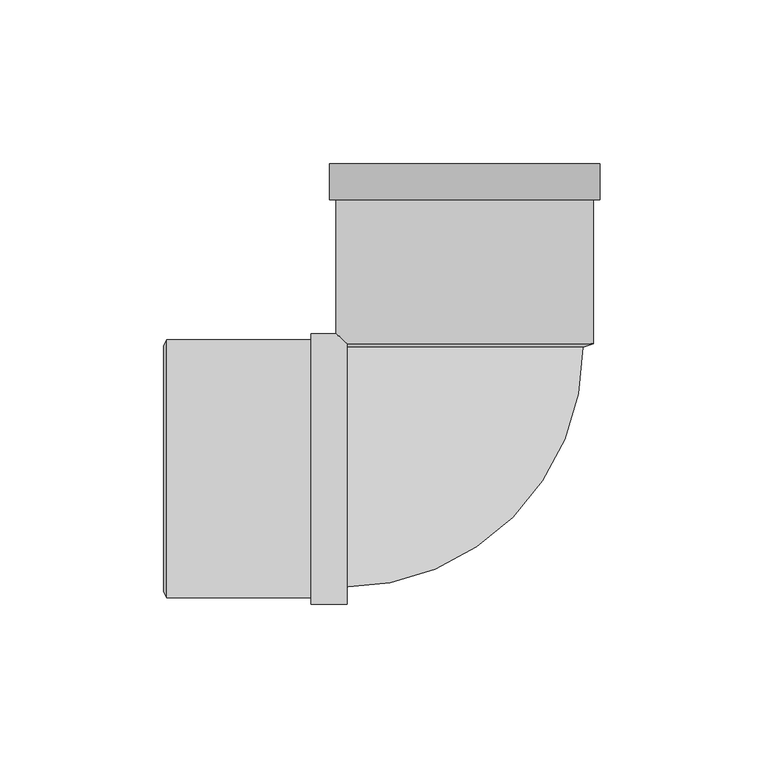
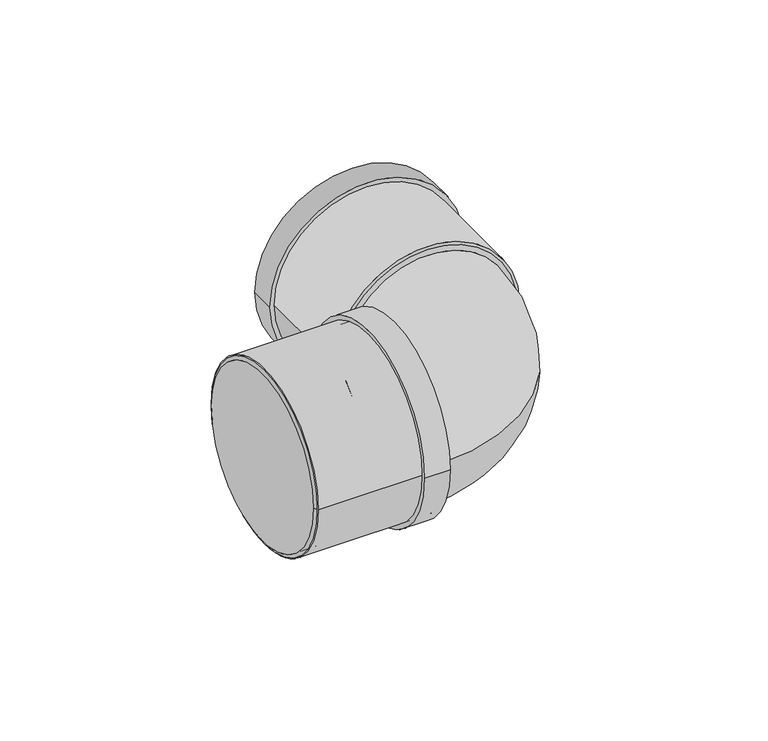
"""IFC4 building model written with IfcOpenShell, lengths in millimetres: pipe fitting geometry, Superdrain HT Bend Composite 2x45 : Superdrain HT Bend Composite 2x45."""

from ifc_helpers import new_model, si_unit, point, frame, origin, origin_2d, place, context, project, spatial, polyline, circle_curve, ellipse_curve, trimmed, segment, composite_curve, outline, extrude, source, transform, mapped, element, save
from ifc_brep_helpers import plane_surface, revolved_surface, advanced_brep


def pipe_fitting_4f944cac(model_context):
    return source(origin(), model_context, "Body", "SolidModel", [
        extrude(outline(composite_curve([segment(trimmed(circle_curve(origin_2d(), 39.375), [point((39.375, 0.0))], [point((-39.375, 0.0))], False, "CARTESIAN"), True, "CONTINUOUS"), segment(trimmed(circle_curve(origin_2d(), 39.375), [point((-39.375, 0.0))], [point((39.375, 0.0))], False, "CARTESIAN"), True, "CONTINUOUS")], self_intersect=False), holes=[composite_curve([segment(trimmed(circle_curve(origin_2d(), 37.5), [point((37.5, 0.0))], [point((-37.5, 0.0))], True, "CARTESIAN"), True, "CONTINUOUS"), segment(trimmed(circle_curve(origin_2d(), 37.5), [point((-37.5, 0.0))], [point((37.5, 0.0))], True, "CARTESIAN"), True, "CONTINUOUS")], self_intersect=False)]), frame((-91.0, 0.0, 0.0), z_axis=(1.0, 0.0, 0.0), x_axis=(0.0, 1.0, 0.0)), (0.0, 0.0, 1.0), 55.0),
        extrude(outline(composite_curve([segment(trimmed(circle_curve(origin_2d(), 41.34375), [point((41.34375, 0.0))], [point((-41.34375, 0.0))], False, "CARTESIAN"), True, "CONTINUOUS"), segment(trimmed(circle_curve(origin_2d(), 41.34375), [point((-41.34375, 0.0))], [point((41.34375, 0.0))], False, "CARTESIAN"), True, "CONTINUOUS")], self_intersect=False), holes=[composite_curve([segment(trimmed(circle_curve(origin_2d(), 37.5), [point((37.5, 0.0))], [point((-37.5, 0.0))], True, "CARTESIAN"), True, "CONTINUOUS"), segment(trimmed(circle_curve(origin_2d(), 37.5), [point((-37.5, 0.0))], [point((37.5, 0.0))], True, "CARTESIAN"), True, "CONTINUOUS")], self_intersect=False)]), frame((-47.0, 0.0, 0.0), z_axis=(1.0, 0.0, 0.0), x_axis=(0.0, 1.0, 0.0)), (0.0, 0.0, 1.0), 11.0),
        advanced_brep(
        [(-92.0, 37.5, 0.0), (-92.0, -37.5, 0.0), (-91.0, 39.375, 0.0), (-91.0, -39.375, 0.0)],
        [
            (0, 1, circle_curve(frame((-92.0, 0.0, 0.0), z_axis=(-1.0, 0.0, 0.0), x_axis=(0.0, 1.0000000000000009, 0.0)), 37.5)),
            (1, 0, circle_curve(frame((-92.0, 0.0, 0.0), z_axis=(-1.0, 0.0, 0.0), x_axis=(0.0, -1.0000000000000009, 0.0)), 37.5)),
            (2, 3, circle_curve(frame((-91.0, 0.0, 0.0), z_axis=(1.0, 0.0, 0.0), x_axis=(0.0, -1.0000000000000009, 0.0)), 39.375)),
            (3, 2, circle_curve(frame((-91.0, 0.0, 0.0), z_axis=(1.0, 0.0, 0.0), x_axis=(0.0, 1.0000000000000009, 0.0)), 39.375)),
            (3, 1),
            (0, 2),
        ],
        [
            plane_surface(frame((-92.0, 0.0, 0.0), z_axis=(-1.0, 0.0, 0.0), x_axis=(0.0, 0.0, -1.0))),
            plane_surface(frame((-91.0, 0.0, 0.0), z_axis=(1.0, 0.0, 0.0), x_axis=(0.0, 0.0, -1.0))),
            revolved_surface(polyline([(-92.0, 37.49999999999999, 0.0), (-91.0, 39.375, 0.0)]), (-112.0, 0.0, 0.0), (1.0000000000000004, 0.0, 0.0)),
            revolved_surface(polyline([(-92.0, -37.49999999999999, 0.0), (-91.0, -39.375, 0.0)]), (-112.0, 0.0, 0.0), (1.0000000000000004, 0.0, 0.0)),
        ],
        [
            (0, [[1, 2]]),
            (1, [[3, 4]]),
            (2, [[-4, 5, -1, 6]]),
            (3, [[-3, -6, -2, -5]]),
        ],
    ),
        advanced_brep(
        [(36.2, 37.2, 0.0), (-36.2, 37.2, 0.0), (-37.2, -36.2, 0.0), (-37.2, 36.2, 0.0)],
        [
            (0, 1, circle_curve(frame((0.0, 37.2, 0.0), z_axis=(0.0, 1.0, 0.0), x_axis=(-1.0, 0.0, 0.0)), 36.2)),
            (1, 0, circle_curve(frame((0.0, 37.2, 0.0), z_axis=(0.0, 1.0, 0.0), x_axis=(-1.0, 0.0, 0.0)), 36.2)),
            (2, 3, circle_curve(frame((-37.2, 0.0, 0.0), z_axis=(-1.0, 0.0, 0.0), x_axis=(0.0, 1.0, 0.0)), 36.2)),
            (3, 2, circle_curve(frame((-37.2, 0.0, 0.0), z_axis=(-1.0, 0.0, 0.0), x_axis=(0.0, 1.0, 0.0)), 36.2)),
            (3, 1, circle_curve(frame((-37.2, 37.2, 0.0), z_axis=(0.0, 0.0, 1.0), x_axis=(1.0, 0.0, 0.0)), 1.0)),
            (0, 2, circle_curve(frame((-37.2, 37.2, 0.0), z_axis=(0.0, 0.0, -1.0), x_axis=(1.0, 0.0, 0.0)), 73.4)),
        ],
        [
            plane_surface(frame((0.0, 37.2, 0.0), z_axis=(0.0, 1.0, 0.0), x_axis=(0.0, 0.0, -1.0))),
            plane_surface(frame((-37.2, 0.0, 0.0), z_axis=(-1.0, 0.0, 0.0), x_axis=(0.0, 0.0, -1.0))),
            revolved_surface(trimmed(ellipse_curve(frame((0.0, 37.2, 0.0), z_axis=(0.0, -1.0, 0.0), x_axis=(-1.0, 0.0, 0.0)), 36.2, 36.2), [point((-36.2, 37.2, 0.0))], [point((36.2, 37.2, 0.0))], True, "CARTESIAN"), (-37.2, 37.2, 0.0), (0.0, 0.0, 1.0)),
            revolved_surface(trimmed(ellipse_curve(frame((0.0, 37.2, 0.0), z_axis=(0.0, -1.0, 0.0), x_axis=(-1.0, 0.0, 0.0)), 36.2, 36.2), [point((36.2, 37.2, 0.0))], [point((-36.2, 37.2, 0.0))], True, "CARTESIAN"), (-37.2, 37.2, 0.0), (0.0, 0.0, 1.0)),
        ],
        [
            (0, [[1, 2]]),
            (1, [[3, 4]]),
            (2, [[-4, 5, -1, 6]]),
            (3, [[-3, -6, -2, -5]]),
        ],
    ),
        extrude(outline(composite_curve([segment(trimmed(circle_curve(origin_2d(), 39.375), [point((0.0, 39.375))], [point((0.0, -39.375))], False, "CARTESIAN"), True, "CONTINUOUS"), segment(trimmed(circle_curve(origin_2d(), 39.375), [point((0.0, -39.375))], [point((0.0, 39.375))], False, "CARTESIAN"), True, "CONTINUOUS")], self_intersect=False), holes=[composite_curve([segment(trimmed(circle_curve(origin_2d(), 37.5), [point((0.0, 37.5))], [point((0.0, -37.5))], True, "CARTESIAN"), True, "CONTINUOUS"), segment(trimmed(circle_curve(origin_2d(), 37.5), [point((0.0, -37.5))], [point((0.0, 37.5))], True, "CARTESIAN"), True, "CONTINUOUS")], self_intersect=False)]), frame((0.0, 38.2, 0.0), z_axis=(0.0, 1.0, 0.0), x_axis=(0.0, 0.0, 1.0)), (0.0, 0.0, 1.0), 55.0),
        extrude(outline(composite_curve([segment(trimmed(circle_curve(origin_2d(), 41.34375), [point((0.0, -41.34375))], [point((0.0, 41.34375))], False, "CARTESIAN"), True, "CONTINUOUS"), segment(trimmed(circle_curve(origin_2d(), 41.34375), [point((0.0, 41.34375))], [point((0.0, -41.34375))], False, "CARTESIAN"), True, "CONTINUOUS")], self_intersect=False), holes=[composite_curve([segment(trimmed(circle_curve(origin_2d(), 37.5), [point((0.0, -37.5))], [point((0.0, 37.5))], True, "CARTESIAN"), True, "CONTINUOUS"), segment(trimmed(circle_curve(origin_2d(), 37.5), [point((0.0, 37.5))], [point((0.0, -37.5))], True, "CARTESIAN"), True, "CONTINUOUS")], self_intersect=False)]), frame((0.0, 82.2, 0.0), z_axis=(0.0, 1.0, 0.0), x_axis=(0.0, 0.0, 1.0)), (0.0, 0.0, 1.0), 11.0),
        advanced_brep(
        [(39.375, 38.2, 0.0), (-39.375, 38.2, 0.0), (36.2, 37.2, 0.0), (-36.2, 37.2, 0.0)],
        [
            (0, 1, circle_curve(frame((0.0, 38.2, 0.0), z_axis=(0.0, 1.0, 0.0), x_axis=(1.0, 0.0, 0.0)), 39.375)),
            (1, 0, circle_curve(frame((0.0, 38.2, 0.0), z_axis=(0.0, 1.0, 0.0), x_axis=(-1.0, 0.0, 0.0)), 39.375)),
            (2, 3, circle_curve(frame((0.0, 37.2, 0.0), z_axis=(0.0, -1.0, 0.0), x_axis=(-1.0, 0.0, 0.0)), 36.2)),
            (3, 2, circle_curve(frame((0.0, 37.2, 0.0), z_axis=(0.0, -1.0, 0.0), x_axis=(1.0, 0.0, 0.0)), 36.2)),
            (3, 1),
            (0, 2),
        ],
        [
            plane_surface(frame((0.0, 38.2, 0.0), z_axis=(0.0, 1.0, 0.0), x_axis=(0.0, 0.0, -1.0))),
            plane_surface(frame((0.0, 37.2, 0.0), z_axis=(0.0, -1.0, 0.0), x_axis=(0.0, 0.0, -1.0))),
            revolved_surface(polyline([(-36.19999999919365, 37.2, 0.0), (-39.375, 38.2, 0.0)]), (0.0, 25.7984252, 0.0), (0.0, 1.0, 0.0)),
            revolved_surface(polyline([(36.19999999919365, 37.2, 0.0), (39.375, 38.2, 0.0)]), (0.0, 25.7984252, 0.0), (0.0, 1.0, 0.0)),
        ],
        [
            (0, [[1, 2]]),
            (1, [[3, 4]]),
            (2, [[-4, 5, -1, 6]]),
            (3, [[-3, -6, -2, -5]]),
        ],
    ),
        extrude(outline(composite_curve([segment(trimmed(circle_curve(origin_2d(), 37.5), [point((-37.5, 0.0))], [point((37.5, 0.0))], False, "CARTESIAN"), True, "CONTINUOUS"), segment(trimmed(circle_curve(origin_2d(), 37.5), [point((37.5, 0.0))], [point((-37.5, 0.0))], False, "CARTESIAN"), True, "CONTINUOUS")], self_intersect=False)), frame((-91.0, 0.0, 0.0), z_axis=(1.0, 0.0, 0.0), x_axis=(0.0, 1.0, 0.0)), (0.0, 0.0, 1.0), 53.8),
    ])


if __name__ == "__main__":
    model = new_model("IFC4")
    model_context = context("Model", 3, world=origin())
    ifc_project = project(units=[si_unit("LENGTHUNIT", "METRE", prefix="MILLI")], contexts=[model_context])
    site = spatial("IfcSite", under=ifc_project)
    building = spatial("IfcBuilding", under=site)
    placement = place(None, origin())
    pipe_fitting_shape = pipe_fitting_4f944cac(model_context)
    element("IfcPipeFitting", 1, ObjectType="Superdrain HT Bend Composite 2x45 : Superdrain HT Bend Composite 2x45", at=placement, inside=building, context=model_context, shape_type="MappedRepresentation", body=[
        mapped(pipe_fitting_shape, transform((0.0, 0.0, 0.0), x_axis=(1.0, 0.0, 0.0), y_axis=(0.0, 1.0, 0.0), z_axis=(0.0, 0.0, 1.0))),
    ])
    save(model, "model.ifc")
